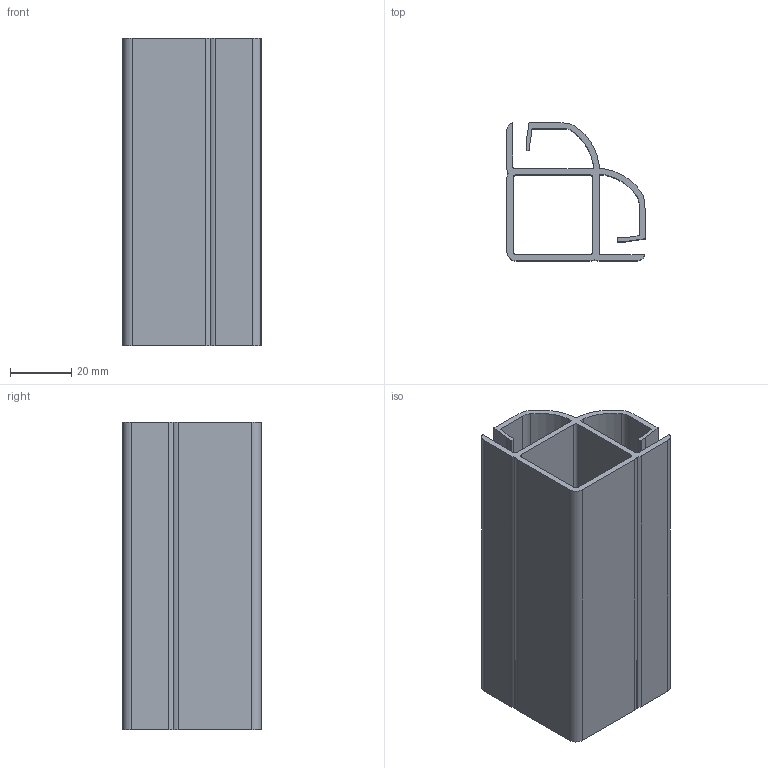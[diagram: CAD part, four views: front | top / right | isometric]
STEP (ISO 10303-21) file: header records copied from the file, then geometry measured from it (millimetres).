
FILE_DESCRIPTION (( 'STEP AP203' ), '1' );
FILE_NAME ('013.030.009.STEP', '2020-09-18T14:21:27', ( '' ), ( '' ), 'SwSTEP 2.0', 'SolidWorks 2018', '' );
FILE_SCHEMA (( 'CONFIG_CONTROL_DESIGN' ));
Length unit declared in the file: millimetre
Products named in the file (1): 013.030.009
Bounding box: 45 x 45 x 100 mm (x, y, z)
Volume: 41143.8 mm3; surface area: 43537.9 mm2
Topology: 1 solids, 1 shells, 64 faces, 186 edges, 124 vertices
Faces by surface type: plane 32, cylinder 28, bspline 4
Entity records: 2231 total; most frequent: CARTESIAN_POINT 427, ORIENTED_EDGE 372, DIRECTION 356, EDGE_CURVE 186, VERTEX_POINT 124, VECTOR 122, LINE 122, AXIS2_PLACEMENT_3D 117
